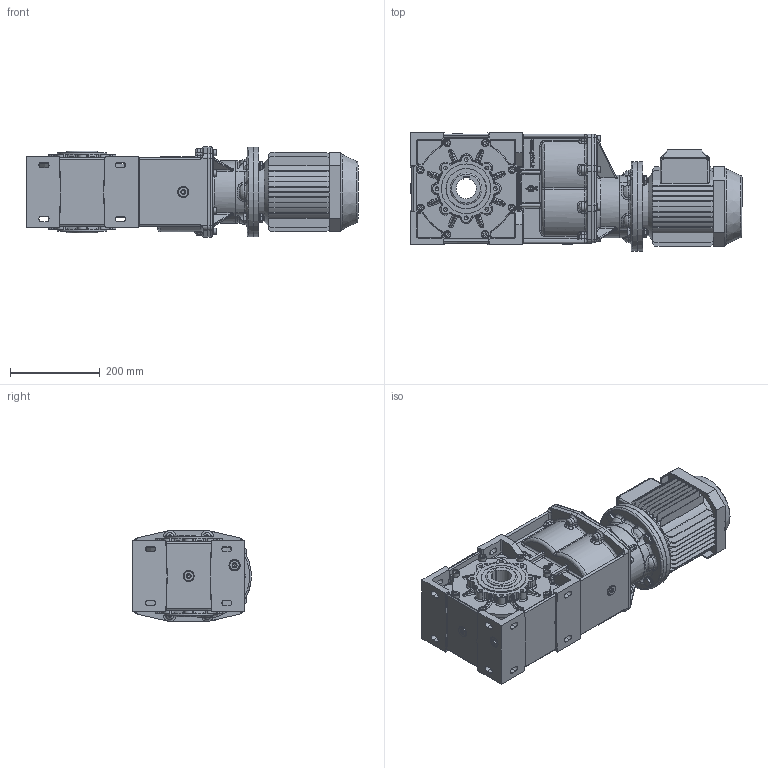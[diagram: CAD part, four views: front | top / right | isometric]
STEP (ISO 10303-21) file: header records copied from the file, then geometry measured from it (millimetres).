
FILE_DESCRIPTION((''),'2;1');
FILE_NAME('F:\Ghirri\3D\MO_RO40\Assiemi\MO40_3s-B5_90S.stp','2006-02-01T17:02:27',('Stefano'),(''),'Autodesk Inventor 10','Autodesk Inventor 10','');
FILE_SCHEMA(('AUTOMOTIVE_DESIGN { 1 0 10303 214 1 1 1 1 }'));
Length unit declared in the file: millimetre
Products named in the file (18): MO40_3s-B5_90S; Primario_MO40_3S; 3904001-A0; 3904002-A0; 3904003-A0; 3904009-A0; DIN 3760 AS AS - 70 x 90 x 10 - NBR; Guarnizione 3_8 GAS; Tappo 3_8 GAS_esagn_incsst; UNI 5931  M 10 x  25; UNI 8839 A 8; UNI 5931  M 8 x  30; motori B5 90S; FM_MRV70_D=200; UNI 5738  M10 x 1.25 x 40; UNI 6593 11 x 21; UNI 5589  M10
Assembly tree (60 placements, depth 3):
  MO40_3s-B5_90S
    Primario_MO40_3S
      3904001-A0
      3904002-A0
      3904003-A0
      3904009-A0
      DIN 3760 AS AS - 70 x 90 x 10 - NBR  x2
      Guarnizione 3_8 GAS  x5
      Tappo 3_8 GAS_esagn_incsst  x5
      UNI 5931  M 10 x  25  x8
      UNI 8839 A 8  x8
      UNI 5931  M 8 x  30  x8
    motori B5 90S
    FM_MRV70_D=200
      FM_MRV70_D=200
      UNI 5738  M10 x 1.25 x 40  x4
      UNI 6593 11 x 21  x8
      UNI 5589  M10  x4
Bounding box: 739 x 264.63 x 202 mm (x, y, z)
Volume: 19054473.4 mm3; surface area: 1524404.1 mm2
Topology: 58 solids, 59 shells, 3333 faces, 8396 edges, 5227 vertices
Faces by surface type: plane 1324, cylinder 961, bspline 838, cone 152, torus 54, sphere 4
Full cylindrical faces by diameter (mm): 8 x10, 8.5 x8, 10 x12, 10.5 x8, 11 x8, 12 x4, 13 x8, 14.95 x1, 16 x8, 16.2 x4, 16.3 x5, 16.5 x5, 20 x6, 21 x8, 22 x10, 24 x1, 25 x1, 27 x4, 70 x2, 76 x2, 85 x2, 90 x5, 100 x2, 110 x2, 114.4 x1, 130 x2, 140 x1, 194.4 x1, 200 x5
Entity records: 148520 total; most frequent: CARTESIAN_POINT 82852, ORIENTED_EDGE 13884, DIRECTION 13002, EDGE_CURVE 6942, AXIS2_PLACEMENT_3D 4786, VERTEX_POINT 4441, VECTOR 3430, LINE 3430
